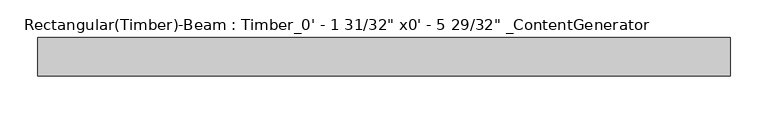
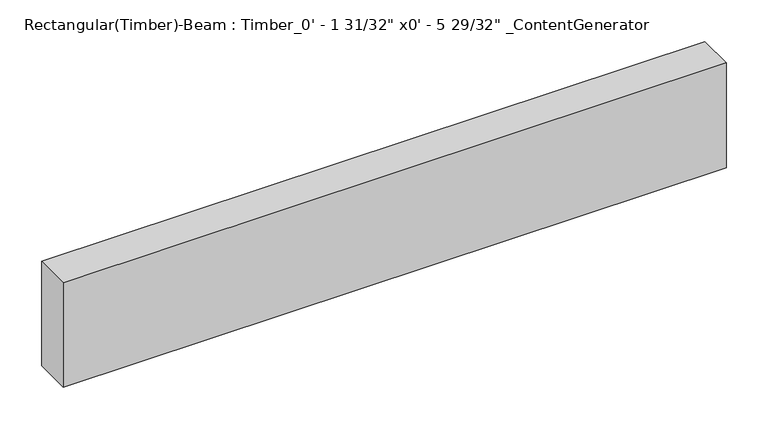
"""IFC4 building model written with IfcOpenShell, lengths in millimetres: beam geometry."""

from ifc_helpers import new_model, si_unit, frame, origin, place, context, project, spatial, polyline, outline, extrude, source, transform, mapped, element, save


def beam_e05c4371(model_context):
    return source(origin(), model_context, "Body", "SweptSolid", [
        extrude(outline(polyline([(457.2, 25.4), (457.2, -25.4), (-457.2, -25.4), (-457.2, 25.4), (457.2, 25.4)])), frame((0.0, 0.0, -76.2), z_axis=(0.0, 0.0, 1.0), x_axis=(1.0, 0.0, 0.0)), (0.0, 0.0, 1.0), 152.4),
    ])


if __name__ == "__main__":
    model = new_model("IFC4")
    model_context = context("Model", 3, world=origin())
    ifc_project = project(units=[si_unit("LENGTHUNIT", "METRE", prefix="MILLI")], contexts=[model_context])
    site = spatial("IfcSite", under=ifc_project)
    building = spatial("IfcBuilding", under=site)
    placement = place(None, origin())
    beam_shape = beam_e05c4371(model_context)
    element("IfcBeam", 1, ObjectType="Rectangular(Timber)-Beam : Timber_0' - 1 31/32\" x0' - 5 29/32\" _ContentGenerator", at=placement, inside=building, context=model_context, shape_type="MappedRepresentation", body=[
        mapped(beam_shape, transform((0.0, 0.0, 0.0), x_axis=(1.0, 0.0, 0.0), y_axis=(0.0, 1.0, 0.0), z_axis=(0.0, 0.0, 1.0))),
    ])
    save(model, "model.ifc")
